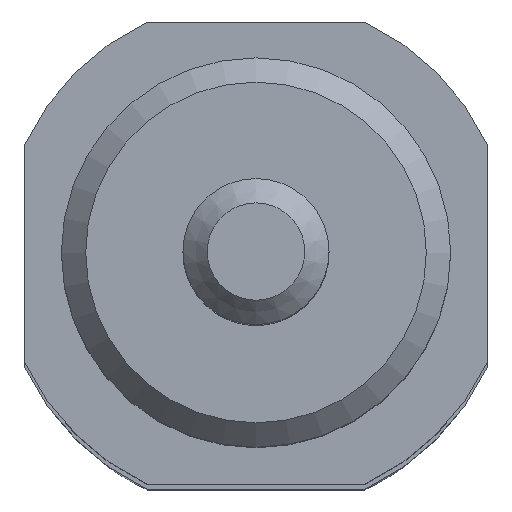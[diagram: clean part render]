
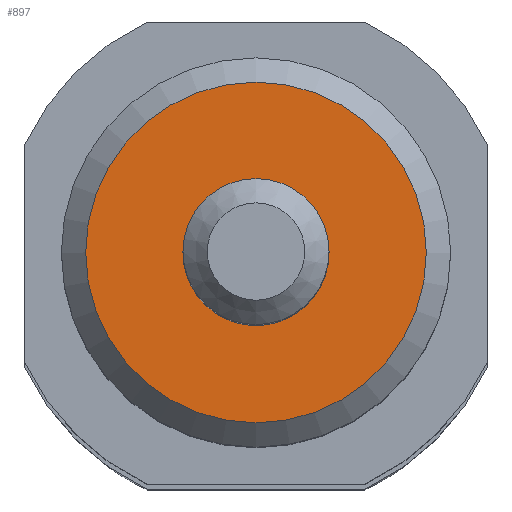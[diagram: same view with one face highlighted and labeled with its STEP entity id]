
A CAD part, top view. The second image highlights one B-rep face of the part: STEP entity #897.
In plain terms, the highlighted planar face has unit normal (0, 0, 1).
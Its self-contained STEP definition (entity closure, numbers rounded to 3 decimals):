
#835=CARTESIAN_POINT('',(7.,0.,165.));
#836=VERTEX_POINT('',#835);
#837=CARTESIAN_POINT('',(0.,0.,165.));
#838=DIRECTION('',(0.0,0.0,-1.0));
#839=DIRECTION('',(-1.0,0.0,0.0));
#840=AXIS2_PLACEMENT_3D('',#837,#838,#839);
#841=CIRCLE('',#840,7.);
#842=EDGE_CURVE('',#836,#836,#841,.T.);
#878=CARTESIAN_POINT('',(0.,0.,165.));
#879=DIRECTION('',(0.0,0.0,-1.0));
#880=DIRECTION('',(-1.0,0.0,0.0));
#881=AXIS2_PLACEMENT_3D('',#878,#879,#880);
#882=PLANE('',#881);
#883=ORIENTED_EDGE('',*,*,#842,.F.);
#884=EDGE_LOOP('',(#883));
#885=FACE_OUTER_BOUND('',#884,.T.);
#886=CARTESIAN_POINT('',(3.,0.,165.));
#887=VERTEX_POINT('',#886);
#888=CARTESIAN_POINT('',(0.,0.,165.));
#889=DIRECTION('',(0.0,0.0,-1.0));
#890=DIRECTION('',(-1.0,0.0,0.0));
#891=AXIS2_PLACEMENT_3D('',#888,#889,#890);
#892=CIRCLE('',#891,3.);
#893=EDGE_CURVE('',#887,#887,#892,.T.);
#894=ORIENTED_EDGE('',*,*,#893,.T.);
#895=EDGE_LOOP('',(#894));
#896=FACE_BOUND('',#895,.T.);
#897=ADVANCED_FACE('',(#885,#896),#882,.F.);
